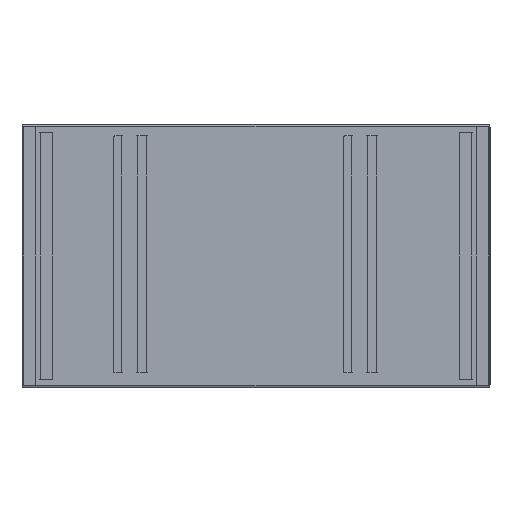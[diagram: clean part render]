
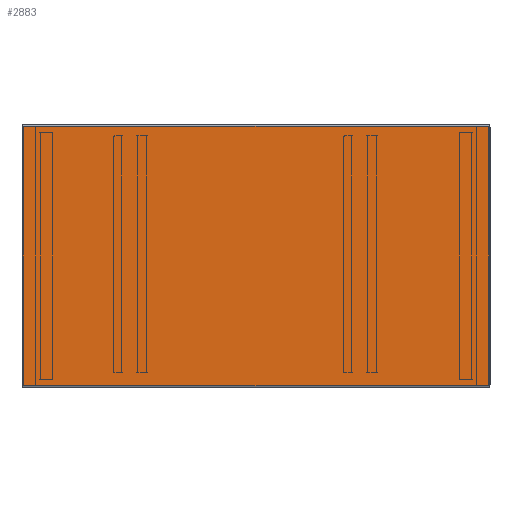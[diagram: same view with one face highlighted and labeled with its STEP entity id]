
A CAD part, left-side view. The second image highlights one B-rep face of the part: STEP entity #2883.
In plain terms, the highlighted planar face has unit normal (-1, 0, 0).
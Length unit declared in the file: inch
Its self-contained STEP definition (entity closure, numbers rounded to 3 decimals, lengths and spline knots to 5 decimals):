
#290=DIRECTION('',(0.,1.,0.));
#291=VECTOR('',#290,35.5);
#292=CARTESIAN_POINT('',(-0.06,-17.75,-9.871));
#293=LINE('',#292,#291);
#320=DIRECTION('',(0.,-1.,0.));
#321=VECTOR('',#320,35.5);
#322=CARTESIAN_POINT('',(-0.06,17.75,9.871));
#323=LINE('',#322,#321);
#1099=DIRECTION('',(0.,0.,-1.));
#1100=VECTOR('',#1099,19.742);
#1101=CARTESIAN_POINT('',(-0.06,17.75,9.871));
#1102=LINE('',#1101,#1100);
#1103=DIRECTION('',(0.,0.,1.));
#1104=VECTOR('',#1103,19.742);
#1105=CARTESIAN_POINT('',(-0.06,-17.75,-9.871));
#1106=LINE('',#1105,#1104);
#1319=CARTESIAN_POINT('',(-0.06,17.75,9.871));
#1320=CARTESIAN_POINT('',(-0.06,17.75,-9.871));
#1321=VERTEX_POINT('',#1319);
#1322=VERTEX_POINT('',#1320);
#1323=CARTESIAN_POINT('',(-0.06,-17.75,-9.871));
#1324=CARTESIAN_POINT('',(-0.06,-17.75,9.871));
#1325=VERTEX_POINT('',#1323);
#1326=VERTEX_POINT('',#1324);
#2872=CARTESIAN_POINT('',(-0.06,0.,0.));
#2873=DIRECTION('',(-1.,0.,0.));
#2874=DIRECTION('',(0.,0.,1.));
#2875=AXIS2_PLACEMENT_3D('',#2872,#2873,#2874);
#2876=PLANE('',#2875);
#2877=ORIENTED_EDGE('',*,*,#1772,.T.);
#2878=ORIENTED_EDGE('',*,*,#1800,.F.);
#2879=ORIENTED_EDGE('',*,*,#1830,.T.);
#2880=ORIENTED_EDGE('',*,*,#2386,.F.);
#2881=EDGE_LOOP('',(#2877,#2878,#2879,#2880));
#2882=FACE_OUTER_BOUND('',#2881,.F.);
#2883=ADVANCED_FACE('',(#2882),#2876,.T.);
#1772=EDGE_CURVE('',#1325,#1322,#293,.T.);
#1800=EDGE_CURVE('',#1321,#1322,#1102,.T.);
#1830=EDGE_CURVE('',#1321,#1326,#323,.T.);
#2386=EDGE_CURVE('',#1325,#1326,#1106,.T.);
